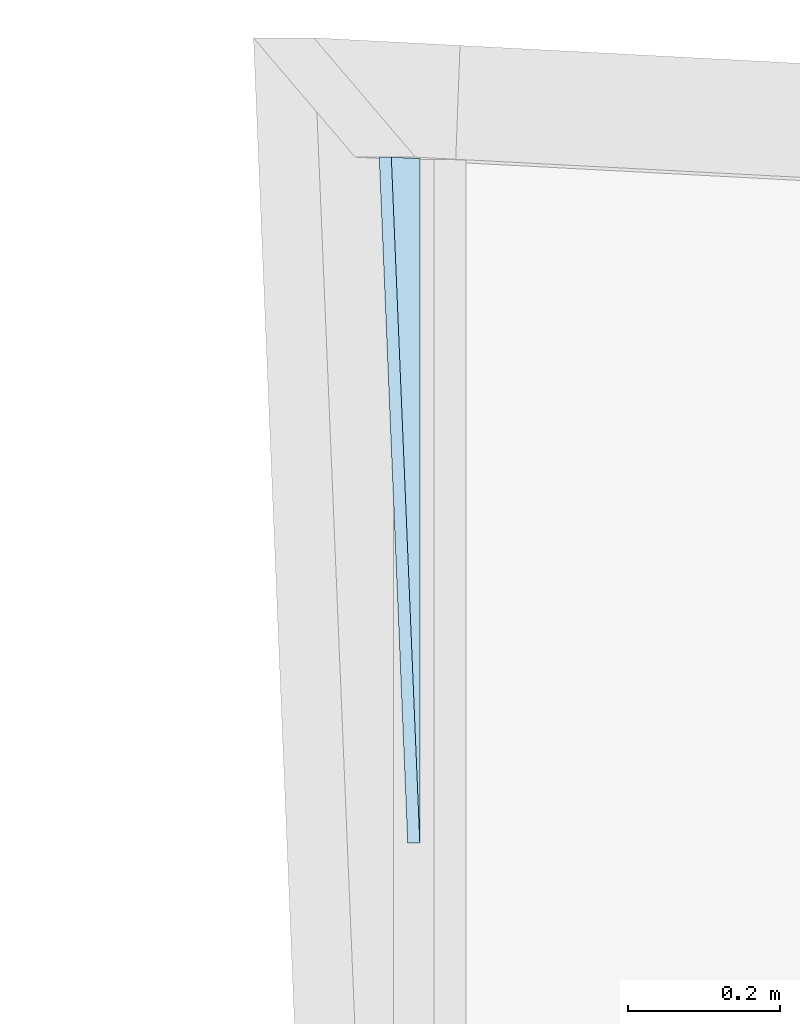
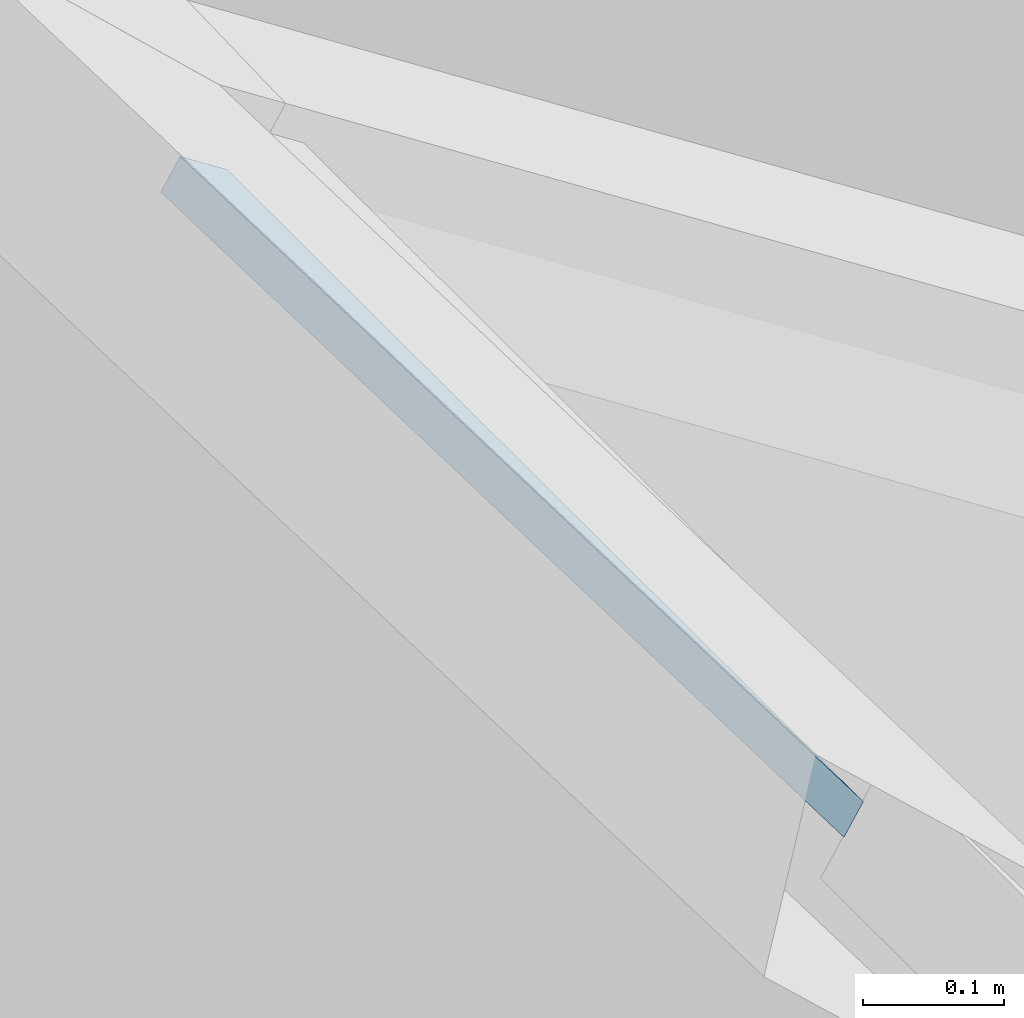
# One storey, part 18 of 33: 1 plate, 1 element without a shape of its own.
"""IFC2X3 building model written with IfcOpenShell, lengths in millimetres."""

from ifc_helpers import new_model, entity, si_unit, converted_unit, derived_unit, direction, frame, origin, place, context, subcontext, project, spatial, polyline, outline, extrude, source, transform, mapped, material, layer, layer_set, layer_usage, type_object, type_shapes, element, aggregate, save


model = new_model("IFC2X3")

# Units and contexts
model_context = context("Model", 3, precision=0.01, world=origin(), true_north=direction((6.12303176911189e-17, 1.0)))
body_context = subcontext(model_context, "Body", "Model", "MODEL_VIEW")
ifc_project = project(units=[si_unit("LENGTHUNIT", "METRE", prefix="MILLI"), si_unit("AREAUNIT", "SQUARE_METRE"), si_unit("VOLUMEUNIT", "CUBIC_METRE"), converted_unit("PLANEANGLEUNIT", "DEGREE", entity("IfcRatioMeasure", 0.0174532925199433), si_unit("PLANEANGLEUNIT", "RADIAN"), dimensions=[0, 0, 0, 0, 0, 0, 0]), si_unit("MASSUNIT", "GRAM", prefix="KILO"), derived_unit("MASSDENSITYUNIT", [(si_unit("MASSUNIT", "GRAM", prefix="KILO"), 1), (si_unit("LENGTHUNIT", "METRE"), -3)]), si_unit("TIMEUNIT", "SECOND"), si_unit("FREQUENCYUNIT", "HERTZ"), si_unit("THERMODYNAMICTEMPERATUREUNIT", "DEGREE_CELSIUS"), derived_unit("THERMALTRANSMITTANCEUNIT", [(si_unit("MASSUNIT", "GRAM", prefix="KILO"), 1), (si_unit("THERMODYNAMICTEMPERATUREUNIT", "KELVIN"), -1), (si_unit("TIMEUNIT", "SECOND"), -3)]), derived_unit("VOLUMETRICFLOWRATEUNIT", [(si_unit("LENGTHUNIT", "METRE"), 3), (si_unit("TIMEUNIT", "SECOND"), -1)]), si_unit("ELECTRICCURRENTUNIT", "AMPERE"), si_unit("ELECTRICVOLTAGEUNIT", "VOLT"), si_unit("POWERUNIT", "WATT"), si_unit("FORCEUNIT", "NEWTON", prefix="KILO"), si_unit("ILLUMINANCEUNIT", "LUX"), si_unit("LUMINOUSFLUXUNIT", "LUMEN"), si_unit("LUMINOUSINTENSITYUNIT", "CANDELA"), derived_unit("USERDEFINED", [(si_unit("MASSUNIT", "GRAM", prefix="KILO"), -1), (si_unit("LENGTHUNIT", "METRE"), -2), (si_unit("TIMEUNIT", "SECOND"), 3), (si_unit("LUMINOUSFLUXUNIT", "LUMEN"), 1)]), derived_unit("LINEARVELOCITYUNIT", [(si_unit("LENGTHUNIT", "METRE"), 1), (si_unit("TIMEUNIT", "SECOND"), -1)]), si_unit("PRESSUREUNIT", "PASCAL"), derived_unit("USERDEFINED", [(si_unit("LENGTHUNIT", "METRE"), -2), (si_unit("MASSUNIT", "GRAM", prefix="KILO"), 1), (si_unit("TIMEUNIT", "SECOND"), -2)])], contexts=[model_context])

# Site, building, storey
site_placement = place(None, origin())
site = spatial("IfcSite", under=ifc_project, at=site_placement, Name="表面", CompositionType="ELEMENT")
building_placement = place(site_placement, origin())
building = spatial("IfcBuilding", under=site, at=building_placement, CompositionType="ELEMENT")
storey_placement = place(building_placement, frame((0.0, 0.0, 6000.0)))
storey = spatial("IfcBuildingStorey", under=building, at=storey_placement, Name="3F", CompositionType="ELEMENT", Elevation=6000.00000000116)

# Curtain wall, plate
curtain_wall_type = type_object("IfcCurtainWallType", Name="幕墙系统:1450 x 2100mm", PredefinedType="NOTDEFINED")
curtain_wall_placement = place(storey_placement, frame((0.0, 0.0, -6000.0)))
curtain_wall = element("IfcCurtainWall", 1, at=curtain_wall_placement, inside=storey, type_object=curtain_wall_type, Name="幕墙系统:1450 x 2100mm", ObjectType="幕墙系统:1450 x 2100mm")
ifc_material = material(Name="<Unnamed>")
ifc_layer = layer(ifc_material, 30.0)
ifc_layer_set = layer_set([ifc_layer], Name="幕墙系统:1450 x 2100mm")
ifc_layer_usage = layer_usage(ifc_layer_set, "AXIS3", "POSITIVE", 0.0)
plate_type = type_object("IfcPlateType", Name="玻璃", PredefinedType="CURTAIN_PANEL", material=ifc_layer_set)
shared_shape = source(origin(), body_context, "Body", "SweptSolid", [
    extrude(outline(polyline([(-1.42446388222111, -300.177716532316), (42.8725089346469, -300.177716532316), (-41.4480450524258, 600.355433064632), (-1.42446388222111, -300.177716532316)])), frame((-149.909219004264, -15.0, 14.7510958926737), z_axis=(0.0, 1.0, 0.0), x_axis=(-0.0444004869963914, 0.0, 0.999013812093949)), (0.0, 0.0, 1.0), 30.0),
])
type_shapes(plate_type, [shared_shape])
plate_placement = place(curtain_wall_placement, frame((-16232.35211698, 1470.242742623, 9839.29627852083), z_axis=(-0.848048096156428, 0.0, 0.529919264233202), x_axis=(0.0, -1.0, 0.0)))
plate = element("IfcPlate", 2, at=plate_placement, type_object=plate_type, material=ifc_layer_usage, Name="系统嵌板:玻璃", ObjectType="玻璃", context=body_context, shape_type="MappedRepresentation", body=[
    mapped(shared_shape, transform((0.0, 0.0, 0.0), scale=1.0)),
])
aggregate(curtain_wall, [plate])

save(model, "model.ifc")
